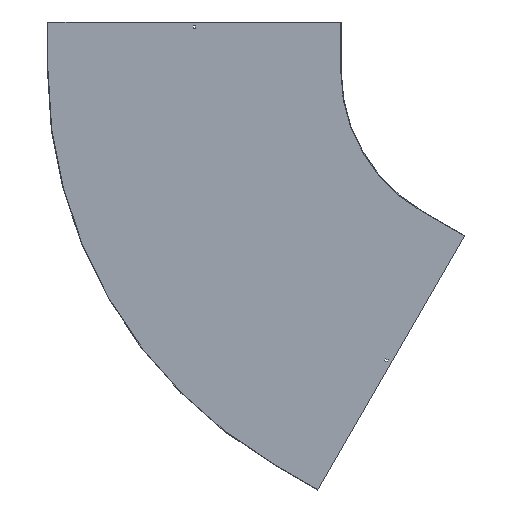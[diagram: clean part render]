
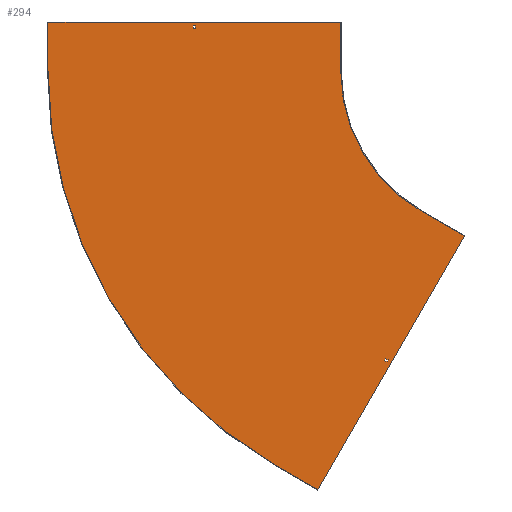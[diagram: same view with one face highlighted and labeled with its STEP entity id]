
A CAD part, front view. The second image highlights one B-rep face of the part: STEP entity #294.
In plain terms, the highlighted planar face has unit normal (0, -1, 0).
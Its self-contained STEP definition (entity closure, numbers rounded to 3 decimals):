
#7 = CARTESIAN_POINT ( 'NONE',  ( -500., -1.5, 150. ) ) ;
#13 = EDGE_CURVE ( 'NONE', #173, #779, #323, .T. ) ;
#20 = LINE ( 'NONE', #419, #451 ) ;
#25 = LINE ( 'NONE', #7, #644 ) ;
#30 = LINE ( 'NONE', #694, #338 ) ;
#37 = CARTESIAN_POINT ( 'NONE',  ( -250., -1.5, -433.013 ) ) ;
#39 = DIRECTION ( 'NONE',  ( 0., -1., 0. ) ) ;
#42 = DIRECTION ( 'NONE',  ( 1., 0., 0. ) ) ;
#45 = VERTEX_POINT ( 'NONE', #602 ) ;
#46 = EDGE_CURVE ( 'NONE', #856, #173, #860, .T. ) ;
#50 = ORIENTED_EDGE ( 'NONE', *, *, #745, .T. ) ;
#54 = CARTESIAN_POINT ( 'NONE',  ( -946.75, -1.5, 138. ) ) ;
#55 = ORIENTED_EDGE ( 'NONE', *, *, #205, .F. ) ;
#56 = VECTOR ( 'NONE', #175, 1000. ) ;
#59 = EDGE_LOOP ( 'NONE', ( #322, #50, #624, #443 ) ) ;
#60 = VERTEX_POINT ( 'NONE', #521 ) ;
#68 = DIRECTION ( 'NONE',  ( 0., 0., 1. ) ) ;
#69 = VERTEX_POINT ( 'NONE', #251 ) ;
#87 = DIRECTION ( 'NONE',  ( 0., -1., 0. ) ) ;
#88 = DIRECTION ( 'NONE',  ( 1., 0., 0. ) ) ;
#91 = DIRECTION ( 'NONE',  ( -0.866, 0., 0.5 ) ) ;
#92 = LINE ( 'NONE', #236, #427 ) ;
#93 = CARTESIAN_POINT ( 'NONE',  ( -1400., -1.5, 0. ) ) ;
#97 = CARTESIAN_POINT ( 'NONE',  ( -120.096, -1.5, -508.013 ) ) ;
#124 = DIRECTION ( 'NONE',  ( 0., 0., -1. ) ) ;
#126 = EDGE_LOOP ( 'NONE', ( #177, #232, #369, #414 ) ) ;
#127 = EDGE_CURVE ( 'NONE', #790, #392, #600, .T. ) ;
#145 = CARTESIAN_POINT ( 'NONE',  ( -953.25, -1.5, 138. ) ) ;
#148 = CARTESIAN_POINT ( 'NONE',  ( -953.25, -1.5, 129. ) ) ;
#150 = VERTEX_POINT ( 'NONE', #665 ) ;
#154 = CARTESIAN_POINT ( 'NONE',  ( -119.346, -1.5, -506.714 ) ) ;
#158 = CARTESIAN_POINT ( 'NONE',  ( -361.658, -1.5, -884.41 ) ) ;
#162 = VECTOR ( 'NONE', #554, 1000. ) ;
#170 = DIRECTION ( 'NONE',  ( 0., 0., -1. ) ) ;
#173 = VERTEX_POINT ( 'NONE', #581 ) ;
#175 = DIRECTION ( 'NONE',  ( -0.5, 0., -0.866 ) ) ;
#177 = ORIENTED_EDGE ( 'NONE', *, *, #13, .F. ) ;
#198 = EDGE_CURVE ( 'NONE', #577, #790, #566, .T. ) ;
#205 = EDGE_CURVE ( 'NONE', #150, #754, #752, .T. ) ;
#212 = DIRECTION ( 'NONE',  ( 0., 0., -1. ) ) ;
#214 = AXIS2_PLACEMENT_3D ( 'NONE', #611, #87, #751 ) ;
#230 = VECTOR ( 'NONE', #254, 1000. ) ;
#232 = ORIENTED_EDGE ( 'NONE', *, *, #46, .F. ) ;
#236 = CARTESIAN_POINT ( 'NONE',  ( -250., -1.5, -433.013 ) ) ;
#240 = LINE ( 'NONE', #770, #515 ) ;
#247 = EDGE_CURVE ( 'NONE', #45, #399, #30, .T. ) ;
#251 = CARTESIAN_POINT ( 'NONE',  ( -364.908, -1.5, -890.039 ) ) ;
#254 = DIRECTION ( 'NONE',  ( -0.866, 0., 0.5 ) ) ;
#260 = CARTESIAN_POINT ( 'NONE',  ( -476.625, -1.5, -825.539 ) ) ;
#280 = EDGE_LOOP ( 'NONE', ( #390, #55, #314, #373, #336, #627, #528, #462 ) ) ;
#281 = PLANE ( 'NONE',  #214 ) ;
#284 = DIRECTION ( 'NONE',  ( 0., 0., 1. ) ) ;
#294 = ADVANCED_FACE ( 'NONE', ( #344, #401, #685 ), #281, .T. ) ;
#314 = ORIENTED_EDGE ( 'NONE', *, *, #580, .F. ) ;
#320 = CARTESIAN_POINT ( 'NONE',  ( -473.375, -1.5, -819.91 ) ) ;
#322 = ORIENTED_EDGE ( 'NONE', *, *, #520, .T. ) ;
#323 = LINE ( 'NONE', #320, #230 ) ;
#336 = ORIENTED_EDGE ( 'NONE', *, *, #789, .F. ) ;
#338 = VECTOR ( 'NONE', #91, 1000. ) ;
#344 = FACE_BOUND ( 'NONE', #126, .T. ) ;
#358 = EDGE_CURVE ( 'NONE', #60, #539, #25, .T. ) ;
#367 = CARTESIAN_POINT ( 'NONE',  ( 0., -1.5, 0. ) ) ;
#369 = ORIENTED_EDGE ( 'NONE', *, *, #728, .F. ) ;
#373 = ORIENTED_EDGE ( 'NONE', *, *, #247, .F. ) ;
#390 = ORIENTED_EDGE ( 'NONE', *, *, #482, .F. ) ;
#392 = VERTEX_POINT ( 'NONE', #145 ) ;
#396 = LINE ( 'NONE', #260, #162 ) ;
#399 = VERTEX_POINT ( 'NONE', #411 ) ;
#401 = FACE_OUTER_BOUND ( 'NONE', #280, .T. ) ;
#408 = VECTOR ( 'NONE', #124, 1000. ) ;
#411 = CARTESIAN_POINT ( 'NONE',  ( -700., -1.5, -1212.436 ) ) ;
#414 = ORIENTED_EDGE ( 'NONE', *, *, #640, .F. ) ;
#417 = DIRECTION ( 'NONE',  ( -1., 0., 0. ) ) ;
#419 = CARTESIAN_POINT ( 'NONE',  ( -1401.5, -1.5, 150. ) ) ;
#426 = DIRECTION ( 'NONE',  ( 0., 0., -1. ) ) ;
#427 = VECTOR ( 'NONE', #511, 1000. ) ;
#443 = ORIENTED_EDGE ( 'NONE', *, *, #127, .T. ) ;
#446 = DIRECTION ( 'NONE',  ( 0.5, 0., 0.866 ) ) ;
#451 = VECTOR ( 'NONE', #88, 1000. ) ;
#462 = ORIENTED_EDGE ( 'NONE', *, *, #358, .F. ) ;
#470 = CARTESIAN_POINT ( 'NONE',  ( -1400., -1.5, 150. ) ) ;
#472 = CARTESIAN_POINT ( 'NONE',  ( -953.25, -1.5, 0. ) ) ;
#482 = EDGE_CURVE ( 'NONE', #754, #60, #20, .T. ) ;
#490 = CARTESIAN_POINT ( 'NONE',  ( 0., -1.5, 129. ) ) ;
#510 = CARTESIAN_POINT ( 'NONE',  ( 119.512, -1.5, -69. ) ) ;
#511 = DIRECTION ( 'NONE',  ( 0.866, 0., -0.5 ) ) ;
#515 = VECTOR ( 'NONE', #42, 1000. ) ;
#520 = EDGE_CURVE ( 'NONE', #392, #666, #240, .T. ) ;
#521 = CARTESIAN_POINT ( 'NONE',  ( -500., -1.5, 150. ) ) ;
#528 = ORIENTED_EDGE ( 'NONE', *, *, #604, .F. ) ;
#531 = AXIS2_PLACEMENT_3D ( 'NONE', #632, #39, #170 ) ;
#539 = VERTEX_POINT ( 'NONE', #711 ) ;
#544 = VECTOR ( 'NONE', #446, 1000. ) ;
#554 = DIRECTION ( 'NONE',  ( 0.866, 0., -0.5 ) ) ;
#566 = LINE ( 'NONE', #490, #859 ) ;
#570 = DIRECTION ( 'NONE',  ( -0.5, 0., -0.866 ) ) ;
#577 = VERTEX_POINT ( 'NONE', #783 ) ;
#580 = EDGE_CURVE ( 'NONE', #399, #150, #616, .T. ) ;
#581 = CARTESIAN_POINT ( 'NONE',  ( -353.863, -1.5, -888.91 ) ) ;
#588 = VERTEX_POINT ( 'NONE', #37 ) ;
#589 = CARTESIAN_POINT ( 'NONE',  ( -357.113, -1.5, -894.539 ) ) ;
#594 = AXIS2_PLACEMENT_3D ( 'NONE', #367, #639, #426 ) ;
#600 = LINE ( 'NONE', #472, #675 ) ;
#602 = CARTESIAN_POINT ( 'NONE',  ( -570.096, -1.5, -1287.436 ) ) ;
#604 = EDGE_CURVE ( 'NONE', #539, #588, #807, .T. ) ;
#608 = VECTOR ( 'NONE', #284, 1000. ) ;
#611 = CARTESIAN_POINT ( 'NONE',  ( 0., -1.5, 0. ) ) ;
#612 = EDGE_CURVE ( 'NONE', #588, #716, #92, .T. ) ;
#616 = CIRCLE ( 'NONE', #594, 1400. ) ;
#624 = ORIENTED_EDGE ( 'NONE', *, *, #198, .T. ) ;
#627 = ORIENTED_EDGE ( 'NONE', *, *, #612, .F. ) ;
#632 = CARTESIAN_POINT ( 'NONE',  ( 0., -1.5, 0. ) ) ;
#640 = EDGE_CURVE ( 'NONE', #779, #69, #776, .T. ) ;
#639 = DIRECTION ( 'NONE',  ( 0., 1., 0. ) ) ;
#644 = VECTOR ( 'NONE', #212, 1000. ) ;
#665 = CARTESIAN_POINT ( 'NONE',  ( -1400., -1.5, 0. ) ) ;
#666 = VERTEX_POINT ( 'NONE', #54 ) ;
#675 = VECTOR ( 'NONE', #68, 1000. ) ;
#685 = FACE_BOUND ( 'NONE', #59, .T. ) ;
#694 = CARTESIAN_POINT ( 'NONE',  ( -570.096, -1.5, -1287.436 ) ) ;
#711 = CARTESIAN_POINT ( 'NONE',  ( -500., -1.5, 0. ) ) ;
#716 = VERTEX_POINT ( 'NONE', #97 ) ;
#728 = EDGE_CURVE ( 'NONE', #69, #856, #396, .T. ) ;
#731 = CARTESIAN_POINT ( 'NONE',  ( -946.75, -1.5, 0. ) ) ;
#745 = EDGE_CURVE ( 'NONE', #666, #577, #750, .T. ) ;
#750 = LINE ( 'NONE', #731, #408 ) ;
#751 = DIRECTION ( 'NONE',  ( 0., 0., -1. ) ) ;
#752 = LINE ( 'NONE', #93, #608 ) ;
#754 = VERTEX_POINT ( 'NONE', #470 ) ;
#770 = CARTESIAN_POINT ( 'NONE',  ( 0., -1.5, 138. ) ) ;
#776 = LINE ( 'NONE', #830, #56 ) ;
#779 = VERTEX_POINT ( 'NONE', #158 ) ;
#783 = CARTESIAN_POINT ( 'NONE',  ( -946.75, -1.5, 129. ) ) ;
#789 = EDGE_CURVE ( 'NONE', #716, #45, #831, .T. ) ;
#790 = VERTEX_POINT ( 'NONE', #148 ) ;
#807 = CIRCLE ( 'NONE', #531, 500. ) ;
#823 = VECTOR ( 'NONE', #570, 1000. ) ;
#830 = CARTESIAN_POINT ( 'NONE',  ( 111.717, -1.5, -64.5 ) ) ;
#831 = LINE ( 'NONE', #154, #823 ) ;
#856 = VERTEX_POINT ( 'NONE', #589 ) ;
#859 = VECTOR ( 'NONE', #417, 1000. ) ;
#860 = LINE ( 'NONE', #510, #544 ) ;
